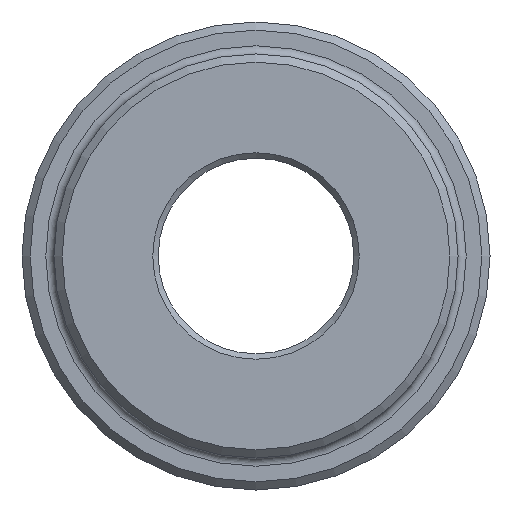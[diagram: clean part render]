
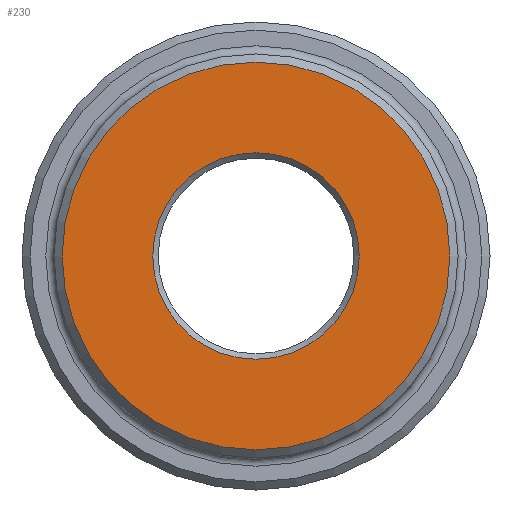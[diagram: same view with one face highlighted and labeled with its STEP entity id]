
A CAD part, left-side view. The second image highlights one B-rep face of the part: STEP entity #230.
In plain terms, the highlighted planar face has unit normal (-1, 0, 0).
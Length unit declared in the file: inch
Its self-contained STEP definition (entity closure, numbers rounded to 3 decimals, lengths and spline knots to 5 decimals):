
#6 = CARTESIAN_POINT ( 'NONE',  ( 0., 0., -1.425 ) ) ;
#13 = DIRECTION ( 'NONE',  ( 0., 0., -1. ) ) ;
#79 = ORIENTED_EDGE ( 'NONE', *, *, #1121, .T. ) ;
#106 = DIRECTION ( 'NONE',  ( 0., 0., -1. ) ) ;
#111 = AXIS2_PLACEMENT_3D ( 'NONE', #1215, #1719, #106 ) ;
#230 = ADVANCED_FACE ( 'NONE', ( #911, #1684 ), #1806, .F. ) ;
#317 = ORIENTED_EDGE ( 'NONE', *, *, #758, .T. ) ;
#375 = VERTEX_POINT ( 'NONE', #884 ) ;
#517 = CIRCLE ( 'NONE', #1385, 0.759 ) ;
#758 = EDGE_CURVE ( 'NONE', #1008, #1008, #1446, .T. ) ;
#831 = DIRECTION ( 'NONE',  ( 1., 0., 0. ) ) ;
#884 = CARTESIAN_POINT ( 'NONE',  ( 0., 0., -0.759 ) ) ;
#911 = FACE_BOUND ( 'NONE', #1708, .T. ) ;
#943 = DIRECTION ( 'NONE',  ( 1., 0., 0. ) ) ;
#979 = CARTESIAN_POINT ( 'NONE',  ( 0., 0., 0. ) ) ;
#1008 = VERTEX_POINT ( 'NONE', #6 ) ;
#1121 = EDGE_CURVE ( 'NONE', #375, #375, #517, .T. ) ;
#1215 = CARTESIAN_POINT ( 'NONE',  ( 0., 0., 0. ) ) ;
#1358 = AXIS2_PLACEMENT_3D ( 'NONE', #1619, #831, #13 ) ;
#1385 = AXIS2_PLACEMENT_3D ( 'NONE', #979, #943, #1715 ) ;
#1446 = CIRCLE ( 'NONE', #111, 1.425 ) ;
#1521 = EDGE_LOOP ( 'NONE', ( #317 ) ) ;
#1619 = CARTESIAN_POINT ( 'NONE',  ( 0., 0., 0. ) ) ;
#1684 = FACE_OUTER_BOUND ( 'NONE', #1521, .T. ) ;
#1708 = EDGE_LOOP ( 'NONE', ( #79 ) ) ;
#1715 = DIRECTION ( 'NONE',  ( 0., 0., -1. ) ) ;
#1719 = DIRECTION ( 'NONE',  ( -1., 0., 0. ) ) ;
#1806 = PLANE ( 'NONE',  #1358 ) ;
